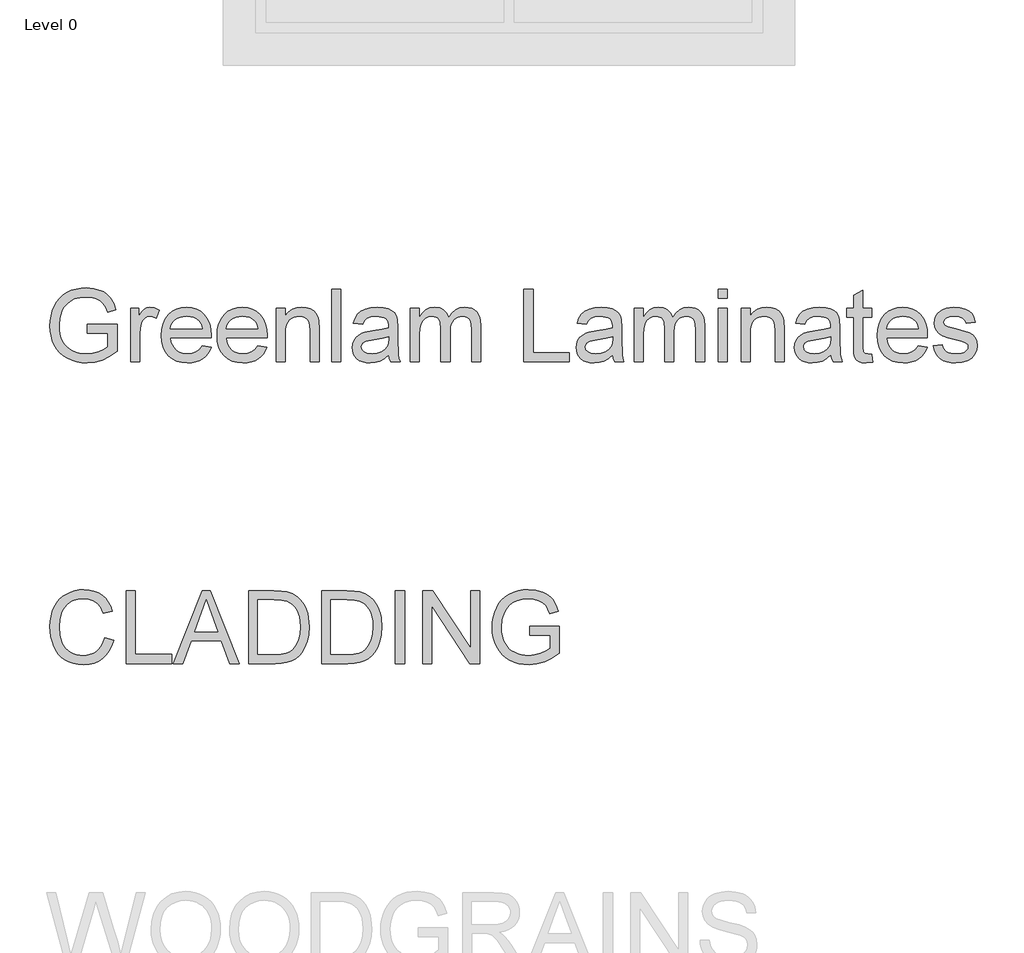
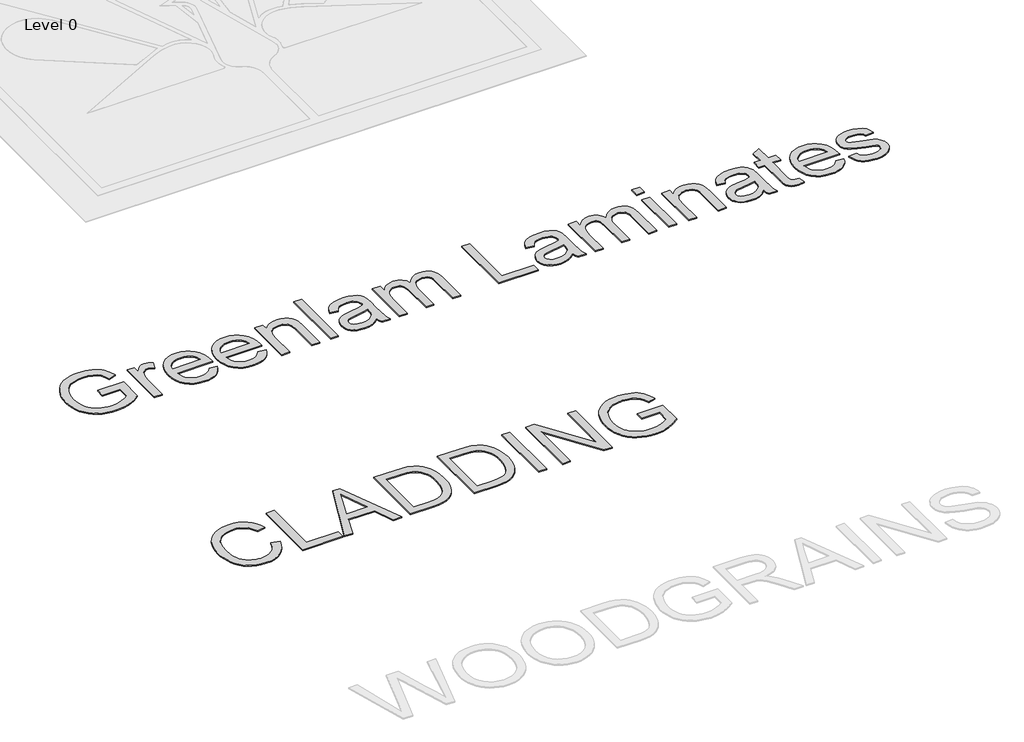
# One storey, part 10 of 10: 2 proxies.
"""IFC4 building model written with IfcOpenShell, lengths in millimetres."""

from ifc_helpers import new_model, si_unit, origin, origin_with_axes, place, context, project, spatial, polyline, outline, extrude, element, save

model = new_model("IFC4")

# Units and contexts
model_context = context("Model", 3, world=origin())
ifc_project = project(units=[si_unit("LENGTHUNIT", "METRE", prefix="MILLI")], contexts=[model_context])

# Site, building, storey
site = spatial("IfcSite", under=ifc_project)
building = spatial("IfcBuilding", under=site)
storey = spatial("IfcBuildingStorey", under=building, Name="Level 0", Elevation=0.0)

# Proxies
placement = place(None, origin())
element("IfcBuildingElementProxy", 1, Name="600mm Arial", ObjectType="600mm Arial", at=placement, inside=storey, context=model_context, shape_type="SweptSolid", body=[
    extrude(outline(polyline([(-10594.9298129, 2995.5724296), (-10594.9298129, 3070.9146622), (-10350.067557, 3070.9146622), (-10350.067557, 2845.6237284), (-10409.5724697, 2804.2370039), (-10470.9535806, 2774.5489269), (-10534.0637368, 2756.6698619), (-10598.7557857, 2750.7101736), (-10642.0325039, 2753.0784139), (-10683.2766741, 2760.183135), (-10722.4882962, 2772.0243367), (-10759.6673704, 2788.6020191), (-10793.6136815, 2809.6678618), (-10823.1270146, 2834.9735446), (-10848.2073696, 2864.5190673), (-10868.8547466, 2898.3044301), (-10884.9817735, 2935.2489794), (-10896.5010785, 2974.2720621), (-10903.4126615, 3015.373678), (-10905.7165225, 3058.5538272), (-10903.4218585, 3101.7385749), (-10896.5378667, 3143.4425975), (-10885.064547, 3183.6658952), (-10869.0018994, 3222.4084678), (-10848.6350324, 3257.9688612), (-10824.2490546, 3288.645621), (-10795.8439661, 3314.4387474), (-10763.4197667, 3335.3482403), (-10727.6800309, 3351.507457), (-10689.3283329, 3363.0497546), (-10648.3646727, 3369.9751331), (-10604.7890504, 3372.2835926), (-10542.7273578, 3366.9309096), (-10486.9196592, 3350.8728605), (-10462.0002525, 3339.1190308), (-10439.9227343, 3325.2682737), (-10420.6871045, 3309.3205892), (-10404.293363, 3291.2759773), (-10377.9346181, 3247.2588966), (-10358.749572, 3191.5799566), (-10428.2056927, 3172.0086345), (-10443.7119188, 3211.7214959), (-10462.5658711, 3241.6854844), (-10487.5082704, 3264.2734389), (-10521.2798375, 3281.8581982), (-10561.5445219, 3293.1705696), (-10605.9662728, 3296.94136), (-10657.9663928, 3292.876264), (-10702.4249319, 3280.6809758), (-10739.1763433, 3261.8822059), (-10768.0550799, 3238.0066644), (-10790.2199701, 3210.2867561), (-10806.8298422, 3179.9548856), (-10824.4881779, 3123.0803291), (-10830.3742899, 3061.6440359), (-10828.6038578, 3024.0235034), (-10823.2925615, 2989.5943472), (-10814.4404009, 2958.3565672), (-10802.0473762, 2930.3101636), (-10786.2744357, 2905.5609024), (-10767.2825277, 2884.2145496), (-10745.0716522, 2866.2711053), (-10719.6418093, 2851.7305695), (-10692.1840169, 2840.496373), (-10663.8892929, 2832.471947), (-10634.7576374, 2827.6572914), (-10604.7890504, 2826.0524062), (-10552.6049894, 2830.8900544), (-10501.7085154, 2845.4029992), (-10457.5074936, 2865.3973856), (-10425.4097896, 2886.679359), (-10425.4097896, 2995.5724296), (-10594.9298129, 2995.5724296)])), origin_with_axes(), (0.0, 0.0, 1.0), 10.0),
    extrude(outline(polyline([(-10237.054208, 2760.1279527), (-10237.054208, 3202.7635693), (-10171.1297545, 3202.7635693), (-10171.1297545, 3137.2805741), (-10146.7759664, 3175.245996), (-10124.3351647, 3197.6132213), (-10101.8207866, 3208.5393166), (-10077.2462693, 3212.1813483), (-10039.7223058, 3206.3688128), (-10001.6097311, 3188.9312062), (-10026.7728596, 3121.3880719), (-10053.2603632, 3132.9763548), (-10079.7478669, 3136.8391157), (-10102.2438509, 3133.1235076), (-10122.3486019, 3121.9766831), (-10138.590592, 3104.244771), (-10149.4982932, 3080.7738997), (-10158.6585549, 3038.6881994), (-10161.7119754, 2992.7765264), (-10161.7119754, 2760.1279527), (-10237.054208, 2760.1279527)])), origin_with_axes(), (0.0, 0.0, 1.0), 10.0),
    extrude(outline(polyline([(-9644.617043, 2891.9768597), (-9570.7463384, 2882.5590807), (-9582.0725053, 2852.9721712), (-9597.3626007, 2826.8985348), (-9616.6166246, 2804.3381714), (-9639.8345771, 2785.2910811), (-9666.7773347, 2770.1619341), (-9697.2057742, 2759.3554005), (-9731.1198956, 2752.8714803), (-9768.519699, 2750.7101736), (-9815.2683035, 2754.4395773), (-9856.9217424, 2765.6277885), (-9893.4800157, 2784.2748071), (-9924.9431233, 2810.3806332), (-9950.2442075, 2843.2186998), (-9968.3164106, 2882.06244), (-9979.1597324, 2926.9118537), (-9982.774173, 2977.766941), (-9979.1229442, 3030.3464752), (-9968.1692578, 3076.6904095), (-9949.9131138, 3116.798744), (-9924.3545121, 3150.6714788), (-9892.9741779, 3177.5820467), (-9857.2528362, 3196.8038809), (-9817.1904869, 3208.3369815), (-9772.7871301, 3212.1813483), (-9729.8139146, 3208.3461785), (-9690.9517803, 3196.8406691), (-9656.2007273, 3177.6648201), (-9625.5607557, 3150.8186315), (-9600.5493785, 3117.0194732), (-9582.6841091, 3076.9847151), (-9571.9649475, 3030.7143572), (-9568.3918936, 2978.2083994), (-9568.833352, 2957.9013133), (-9907.4319404, 2957.9013133), (-9903.0679402, 2927.8361572), (-9894.3905236, 2901.5050034), (-9881.3996907, 2878.9078519), (-9864.0954413, 2860.0447026), (-9843.4342688, 2845.1730729), (-9820.3726662, 2834.5504803), (-9794.9106336, 2828.1769247), (-9767.048171, 2826.0524062), (-9726.9490335, 2829.9887436), (-9693.1774664, 2841.7977556), (-9665.7334695, 2862.2152063), (-9644.617043, 2891.9768597)]), holes=[polyline([(-9907.4319404, 3033.2435459), (-9643.7341262, 3033.2435459), (-9653.9244575, 3073.0483778), (-9662.689246, 3088.7017567), (-9673.9004498, 3101.5224442), (-9694.4466593, 3116.973488), (-9717.82556, 3128.0099478), (-9744.0371522, 3134.6318238), (-9773.0814357, 3136.8391157), (-9799.5735379, 3135.0778807), (-9823.8675452, 3129.7941755), (-9845.9634575, 3120.9880003), (-9865.8612749, 3108.6593549), (-9882.558519, 3093.3784565), (-9895.0527112, 3075.7155222), (-9903.3438517, 3055.670552), (-9907.4319404, 3033.2435459)])]), origin_with_axes(), (0.0, 0.0, 1.0), 10.0),
    extrude(outline(polyline([(-9183.1458683, 2891.9768597), (-9109.2751636, 2882.5590807), (-9120.6013305, 2852.9721712), (-9135.891426, 2826.8985348), (-9155.1454499, 2804.3381714), (-9178.3634023, 2785.2910811), (-9205.3061599, 2770.1619341), (-9235.7345995, 2759.3554005), (-9269.6487209, 2752.8714803), (-9307.0485242, 2750.7101736), (-9353.7971288, 2754.4395773), (-9395.4505677, 2765.6277885), (-9432.0088409, 2784.2748071), (-9463.4719486, 2810.3806332), (-9488.7730328, 2843.2186998), (-9506.8452358, 2882.06244), (-9517.6885576, 2926.9118537), (-9521.3029982, 2977.766941), (-9517.6517694, 3030.3464752), (-9506.698083, 3076.6904095), (-9488.441939, 3116.798744), (-9462.8833374, 3150.6714788), (-9431.5030032, 3177.5820467), (-9395.7816615, 3196.8038809), (-9355.7193122, 3208.3369815), (-9311.3159554, 3212.1813483), (-9268.3427398, 3208.3461785), (-9229.4806055, 3196.8406691), (-9194.7295526, 3177.6648201), (-9164.0895809, 3150.8186315), (-9139.0782038, 3117.0194732), (-9121.2129344, 3076.9847151), (-9110.4937727, 3030.7143572), (-9106.9207189, 2978.2083994), (-9107.3621772, 2957.9013133), (-9445.9607656, 2957.9013133), (-9441.5967654, 2927.8361572), (-9432.9193489, 2901.5050034), (-9419.9285159, 2878.9078519), (-9402.6242666, 2860.0447026), (-9381.963094, 2845.1730729), (-9358.9014915, 2834.5504803), (-9333.4394589, 2828.1769247), (-9305.5769962, 2826.0524062), (-9265.4778588, 2829.9887436), (-9231.7062916, 2841.7977556), (-9204.2622948, 2862.2152063), (-9183.1458683, 2891.9768597)]), holes=[polyline([(-9445.9607656, 3033.2435459), (-9182.2629515, 3033.2435459), (-9192.4532827, 3073.0483778), (-9201.2180713, 3088.7017567), (-9212.4292751, 3101.5224442), (-9232.9754845, 3116.973488), (-9256.3543853, 3128.0099478), (-9282.5659775, 3134.6318238), (-9311.610261, 3136.8391157), (-9338.1023631, 3135.0778807), (-9362.3963704, 3129.7941755), (-9384.4922827, 3120.9880003), (-9404.3901002, 3108.6593549), (-9421.0873442, 3093.3784565), (-9433.5815365, 3075.7155222), (-9441.8726769, 3055.670552), (-9445.9607656, 3033.2435459)])]), origin_with_axes(), (0.0, 0.0, 1.0), 10.0),
    extrude(outline(polyline([(-9031.5784862, 2760.1279527), (-9031.5784862, 3202.7635693), (-8956.2362536, 3202.7635693), (-8956.2362536, 3140.9593941), (-8930.0614497, 3172.1189991), (-8898.6259332, 3194.3758598), (-8861.9297042, 3207.7299762), (-8819.9727626, 3212.1813483), (-8782.8350752, 3208.5944989), (-8748.8243847, 3197.8339505), (-8720.4606829, 3181.2424725), (-8700.2639614, 3160.1628342), (-8686.5603571, 3134.6502179), (-8677.6760069, 3104.7598058), (-8673.7028813, 3031.9191707), (-8673.7028813, 2760.1279527), (-8749.0451139, 2760.1279527), (-8749.0451139, 3021.7656276), (-8751.2156177, 3060.7243309), (-8757.727129, 3088.4258452), (-8769.7384762, 3108.2730788), (-8788.4084874, 3123.6689403), (-8812.3392112, 3133.5465719), (-8840.132696, 3136.8391157), (-8863.0103575, 3134.9905087), (-8884.2601413, 3129.4446876), (-8903.8820472, 3120.2016525), (-8921.8760753, 3107.2614033), (-8936.9086533, 3089.1524121), (-8947.646209, 3064.4031509), (-8954.0887425, 3033.0136196), (-8956.2362536, 2994.9838184), (-8956.2362536, 2760.1279527), (-9031.5784862, 2760.1279527)])), origin_with_axes(), (0.0, 0.0, 1.0), 10.0),
    extrude(outline(polyline([(-8570.1073115, 2760.1279527), (-8570.1073115, 3362.8658136), (-8494.7650789, 3362.8658136), (-8494.7650789, 2760.1279527), (-8570.1073115, 2760.1279527)])), origin_with_axes(), (0.0, 0.0, 1.0), 10.0),
    extrude(outline(polyline([(-8099.2183577, 2816.6346271), (-8135.2156109, 2785.7693277), (-8172.2797219, 2765.5726062), (-8211.2568193, 2754.4257817), (-8252.9930316, 2750.7101736), (-8286.5392711, 2752.9450567), (-8315.9560351, 2759.6497061), (-8341.2433238, 2770.8241217), (-8362.401137, 2786.4683035), (-8379.1075781, 2805.5889702), (-8391.0407503, 2827.1928404), (-8398.2006537, 2851.279914), (-8400.5872881, 2877.8501911), (-8396.9820446, 2909.0833725), (-8386.1663139, 2937.4470743), (-8369.4828654, 2961.727286), (-8348.2744684, 2980.709997), (-8323.3504632, 2995.0573948), (-8295.5201903, 3005.4316671), (-8230.3315007, 3016.7624325), (-8153.297011, 3028.6818092), (-8099.6598161, 3042.661325), (-8099.2183577, 3059.4367439), (-8104.4054938, 3093.0611583), (-8110.889414, 3105.5139638), (-8119.9669022, 3115.0605016), (-8135.6570693, 3124.5886453), (-8154.7685389, 3131.3944622), (-8203.2553859, 3136.8391157), (-8248.1369893, 3133.2154781), (-8279.4805353, 3122.3445651), (-8300.8544792, 3102.2398141), (-8315.8272764, 3070.9146622), (-8391.169509, 3080.3324413), (-8378.0913041, 3121.5352247), (-8358.5751643, 3153.9088403), (-8330.8000736, 3178.6672986), (-8292.9450163, 3197.0246101), (-8246.6470672, 3208.3921638), (-8193.5433012, 3212.1813483), (-8142.610039, 3208.8336222), (-8102.23499, 3198.7904437), (-8071.7927549, 3183.6888878), (-8050.6579343, 3165.1660294), (-8036.6416303, 3142.2653752), (-8027.554945, 3114.030432), (-8023.8761251, 3048.1059785), (-8023.8761251, 2954.3696461), (-8020.0501523, 2823.4772322), (-8014.3847696, 2791.1220108), (-8005.0405669, 2760.1279527), (-8080.3827995, 2760.1279527), (-8092.449329, 2786.3211507), (-8099.2183577, 2816.6346271)]), holes=[polyline([(-8099.2183577, 2967.3190924), (-8149.8389202, 2954.7743163), (-8220.7665689, 2944.2161031), (-8285.5873764, 2932.0024208), (-8302.4547659, 2923.6514995), (-8314.9443596, 2912.1367931), (-8322.6698815, 2898.3412183), (-8325.2450555, 2883.1476919), (-8319.6348551, 2860.7436784), (-8302.8042538, 2842.3863668), (-8275.1211337, 2830.1358964), (-8236.9533767, 2826.0524062), (-8196.4863572, 2830.5589606), (-8160.7282273, 2844.078624), (-8131.739126, 2863.999434), (-8111.5791927, 2887.7094286), (-8102.6396602, 2912.1367931), (-8099.6598161, 2945.9819366), (-8099.2183577, 2967.3190924)])]), origin_with_axes(), (0.0, 0.0, 1.0), 10.0),
    extrude(outline(polyline([(-7920.2805552, 2760.1279527), (-7920.2805552, 3202.7635693), (-7844.9383226, 3202.7635693), (-7844.9383226, 3129.9229342), (-7822.2767917, 3163.3818017), (-7793.1405377, 3189.5933938), (-7758.5228419, 3206.5343597), (-7719.4169858, 3212.1813483), (-7677.5152266, 3206.4239951), (-7659.6821469, 3199.2273036), (-7643.9276004, 3189.1519354), (-7618.8380484, 3161.5056035), (-7602.4305114, 3124.6254335), (-7574.9681204, 3162.9311462), (-7543.6429685, 3190.2923696), (-7508.4550557, 3206.7091037), (-7469.4043819, 3212.1813483), (-7439.2426568, 3209.9050785), (-7412.7689488, 3203.076269), (-7389.9832577, 3191.6949197), (-7370.8855836, 3175.7610308), (-7355.7886262, 3155.0906612), (-7345.0050853, 3129.4998699), (-7338.5349607, 3098.988657), (-7336.3782525, 3063.5570223), (-7336.3782525, 2760.1279527), (-7411.7204851, 2760.1279527), (-7411.7204851, 3031.1834067), (-7413.4679246, 3068.7625525), (-7418.710243, 3094.0912279), (-7428.5326923, 3111.436864), (-7444.0205243, 3125.0668919), (-7463.9413343, 3133.8960598), (-7487.0627177, 3136.8391157), (-7508.413669, 3134.9537205), (-7527.8792251, 3129.2975348), (-7545.4593859, 3119.8705587), (-7561.1541515, 3106.6727921), (-7574.062211, 3089.317959), (-7583.2822535, 3067.4197832), (-7588.814279, 3040.9782648), (-7590.6582875, 3009.9934038), (-7590.6582875, 2760.1279527), (-7666.0005201, 2760.1279527), (-7666.0005201, 3039.5711162), (-7670.3599218, 3082.1718512), (-7675.8091738, 3098.8920879), (-7683.4381267, 3112.5589041), (-7693.5502831, 3123.1814967), (-7706.4491455, 3130.7690628), (-7722.1347141, 3135.3216025), (-7740.6069888, 3136.8391157), (-7769.6328782, 3132.7924138), (-7796.3778992, 3120.6523079), (-7818.4508189, 3100.7131038), (-7833.4604044, 3073.269107), (-7842.068843, 3035.1933205), (-7844.9383226, 2983.3587473), (-7844.9383226, 2760.1279527), (-7920.2805552, 2760.1279527)])), origin_with_axes(), (0.0, 0.0, 1.0), 10.0),
    extrude(outline(polyline([(-6978.5026476, 2760.1279527), (-6978.5026476, 3362.8658136), (-6903.1604149, 3362.8658136), (-6903.1604149, 2835.4701853), (-6601.7914845, 2835.4701853), (-6601.7914845, 2760.1279527), (-6978.5026476, 2760.1279527)])), origin_with_axes(), (0.0, 0.0, 1.0), 10.0),
    extrude(outline(polyline([(-6243.9158796, 2816.6346271), (-6279.9131328, 2785.7693277), (-6316.9772438, 2765.5726062), (-6355.9543412, 2754.4257817), (-6397.6905536, 2750.7101736), (-6431.236793, 2752.9450567), (-6460.653557, 2759.6497061), (-6485.9408457, 2770.8241217), (-6507.0986589, 2786.4683035), (-6523.8051, 2805.5889702), (-6535.7382723, 2827.1928404), (-6542.8981756, 2851.279914), (-6545.28481, 2877.8501911), (-6541.6795665, 2909.0833725), (-6530.8638358, 2937.4470743), (-6514.1803873, 2961.727286), (-6492.9719903, 2980.709997), (-6468.0479852, 2995.0573948), (-6440.2177122, 3005.4316671), (-6375.0290227, 3016.7624325), (-6297.9945329, 3028.6818092), (-6244.357338, 3042.661325), (-6243.9158796, 3059.4367439), (-6249.1030157, 3093.0611583), (-6255.5869359, 3105.5139638), (-6264.6644241, 3115.0605016), (-6280.3545912, 3124.5886453), (-6299.4660609, 3131.3944622), (-6347.9529078, 3136.8391157), (-6392.8345112, 3133.2154781), (-6424.1780572, 3122.3445651), (-6445.5520011, 3102.2398141), (-6460.5247984, 3070.9146622), (-6535.867031, 3080.3324413), (-6522.788826, 3121.5352247), (-6503.2726862, 3153.9088403), (-6475.4975956, 3178.6672986), (-6437.6425383, 3197.0246101), (-6391.3445892, 3208.3921638), (-6338.2408232, 3212.1813483), (-6287.3075609, 3208.8336222), (-6246.932512, 3198.7904437), (-6216.4902768, 3183.6888878), (-6195.3554562, 3165.1660294), (-6181.3391522, 3142.2653752), (-6172.2524669, 3114.030432), (-6168.573647, 3048.1059785), (-6168.573647, 2954.3696461), (-6164.7476742, 2823.4772322), (-6159.0822915, 2791.1220108), (-6149.7380888, 2760.1279527), (-6225.0803214, 2760.1279527), (-6237.1468509, 2786.3211507), (-6243.9158796, 2816.6346271)]), holes=[polyline([(-6243.9158796, 2967.3190924), (-6294.5364421, 2954.7743163), (-6365.4640908, 2944.2161031), (-6430.2848983, 2932.0024208), (-6447.1522878, 2923.6514995), (-6459.6418816, 2912.1367931), (-6467.3674035, 2898.3412183), (-6469.9425774, 2883.1476919), (-6464.332377, 2860.7436784), (-6447.5017757, 2842.3863668), (-6419.8186556, 2830.1358964), (-6381.6508986, 2826.0524062), (-6341.1838791, 2830.5589606), (-6305.4257492, 2844.078624), (-6276.436648, 2863.999434), (-6256.2767146, 2887.7094286), (-6247.3371821, 2912.1367931), (-6244.357338, 2945.9819366), (-6243.9158796, 2967.3190924)])]), origin_with_axes(), (0.0, 0.0, 1.0), 10.0),
    extrude(outline(polyline([(-6064.9780771, 2760.1279527), (-6064.9780771, 3202.7635693), (-5989.6358445, 3202.7635693), (-5989.6358445, 3129.9229342), (-5966.9743136, 3163.3818017), (-5937.8380596, 3189.5933938), (-5903.2203639, 3206.5343597), (-5864.1145078, 3212.1813483), (-5822.2127485, 3206.4239951), (-5804.3796688, 3199.2273036), (-5788.6251224, 3189.1519354), (-5763.5355703, 3161.5056035), (-5747.1280333, 3124.6254335), (-5719.6656424, 3162.9311462), (-5688.3404905, 3190.2923696), (-5653.1525776, 3206.7091037), (-5614.1019038, 3212.1813483), (-5583.9401788, 3209.9050785), (-5557.4664707, 3203.076269), (-5534.6807796, 3191.6949197), (-5515.5831055, 3175.7610308), (-5500.4861482, 3155.0906612), (-5489.7026072, 3129.4998699), (-5483.2324826, 3098.988657), (-5481.0757744, 3063.5570223), (-5481.0757744, 2760.1279527), (-5556.418007, 2760.1279527), (-5556.418007, 3031.1834067), (-5558.1654465, 3068.7625525), (-5563.4077649, 3094.0912279), (-5573.2302142, 3111.436864), (-5588.7180462, 3125.0668919), (-5608.6388562, 3133.8960598), (-5631.7602396, 3136.8391157), (-5653.1111909, 3134.9537205), (-5672.576747, 3129.2975348), (-5690.1569078, 3119.8705587), (-5705.8516734, 3106.6727921), (-5718.759733, 3089.317959), (-5727.9797755, 3067.4197832), (-5733.511801, 3040.9782648), (-5735.3558095, 3009.9934038), (-5735.3558095, 2760.1279527), (-5810.6980421, 2760.1279527), (-5810.6980421, 3039.5711162), (-5815.0574437, 3082.1718512), (-5820.5066958, 3098.8920879), (-5828.1356486, 3112.5589041), (-5838.247805, 3123.1814967), (-5851.1466674, 3130.7690628), (-5866.832236, 3135.3216025), (-5885.3045107, 3136.8391157), (-5914.3304001, 3132.7924138), (-5941.0754212, 3120.6523079), (-5963.1483409, 3100.7131038), (-5978.1579263, 3073.269107), (-5986.766365, 3035.1933205), (-5989.6358445, 2983.3587473), (-5989.6358445, 2760.1279527), (-6064.9780771, 2760.1279527)])), origin_with_axes(), (0.0, 0.0, 1.0), 10.0),
    extrude(outline(polyline([(-5368.0624255, 3287.523581), (-5368.0624255, 3362.8658136), (-5292.7201929, 3362.8658136), (-5292.7201929, 3287.523581), (-5368.0624255, 3287.523581)])), origin_with_axes(), (0.0, 0.0, 1.0), 10.0),
    extrude(outline(polyline([(-5368.0624255, 2760.1279527), (-5368.0624255, 3202.7635693), (-5292.7201929, 3202.7635693), (-5292.7201929, 2760.1279527), (-5368.0624255, 2760.1279527)])), origin_with_axes(), (0.0, 0.0, 1.0), 10.0),
    extrude(outline(polyline([(-5179.7068439, 2760.1279527), (-5179.7068439, 3202.7635693), (-5104.3646113, 3202.7635693), (-5104.3646113, 3140.9593941), (-5078.1898074, 3172.1189991), (-5046.7542909, 3194.3758598), (-5010.0580619, 3207.7299762), (-4968.1011203, 3212.1813483), (-4930.9634329, 3208.5944989), (-4896.9527424, 3197.8339505), (-4868.5890406, 3181.2424725), (-4848.3923191, 3160.1628342), (-4834.6887148, 3134.6502179), (-4825.8043646, 3104.7598058), (-4821.831239, 3031.9191707), (-4821.831239, 2760.1279527), (-4897.1734716, 2760.1279527), (-4897.1734716, 3021.7656276), (-4899.3439754, 3060.7243309), (-4905.8554867, 3088.4258452), (-4917.8668339, 3108.2730788), (-4936.5368451, 3123.6689403), (-4960.4675689, 3133.5465719), (-4988.2610537, 3136.8391157), (-5011.1387152, 3134.9905087), (-5032.388499, 3129.4446876), (-5052.0104049, 3120.2016525), (-5070.004433, 3107.2614033), (-5085.037011, 3089.1524121), (-5095.7745667, 3064.4031509), (-5102.2171002, 3033.0136196), (-5104.3646113, 2994.9838184), (-5104.3646113, 2760.1279527), (-5179.7068439, 2760.1279527)])), origin_with_axes(), (0.0, 0.0, 1.0), 10.0),
    extrude(outline(polyline([(-4435.7022969, 2816.6346271), (-4471.6995501, 2785.7693277), (-4508.7636611, 2765.5726062), (-4547.7407585, 2754.4257817), (-4589.4769709, 2750.7101736), (-4623.0232103, 2752.9450567), (-4652.4399744, 2759.6497061), (-4677.727263, 2770.8241217), (-4698.8850762, 2786.4683035), (-4715.5915174, 2805.5889702), (-4727.5246896, 2827.1928404), (-4734.6845929, 2851.279914), (-4737.0712273, 2877.8501911), (-4733.4659838, 2909.0833725), (-4722.6502531, 2937.4470743), (-4705.9668047, 2961.727286), (-4684.7584076, 2980.709997), (-4659.8344025, 2995.0573948), (-4632.0041295, 3005.4316671), (-4566.81544, 3016.7624325), (-4489.7809502, 3028.6818092), (-4436.1437553, 3042.661325), (-4435.7022969, 3059.4367439), (-4440.889433, 3093.0611583), (-4447.3733532, 3105.5139638), (-4456.4508414, 3115.0605016), (-4472.1410085, 3124.5886453), (-4491.2524782, 3131.3944622), (-4539.7393251, 3136.8391157), (-4584.6209285, 3133.2154781), (-4615.9644745, 3122.3445651), (-4637.3384185, 3102.2398141), (-4652.3112157, 3070.9146622), (-4727.6534483, 3080.3324413), (-4714.5752433, 3121.5352247), (-4695.0591035, 3153.9088403), (-4667.2840129, 3178.6672986), (-4629.4289556, 3197.0246101), (-4583.1310065, 3208.3921638), (-4530.0272405, 3212.1813483), (-4479.0939782, 3208.8336222), (-4438.7189293, 3198.7904437), (-4408.2766942, 3183.6888878), (-4387.1418735, 3165.1660294), (-4373.1255695, 3142.2653752), (-4364.0388842, 3114.030432), (-4360.3600643, 3048.1059785), (-4360.3600643, 2954.3696461), (-4356.5340915, 2823.4772322), (-4350.8687088, 2791.1220108), (-4341.5245061, 2760.1279527), (-4416.8667387, 2760.1279527), (-4428.9332682, 2786.3211507), (-4435.7022969, 2816.6346271)]), holes=[polyline([(-4435.7022969, 2967.3190924), (-4486.3228594, 2954.7743163), (-4557.2505081, 2944.2161031), (-4622.0713157, 2932.0024208), (-4638.9387051, 2923.6514995), (-4651.4282989, 2912.1367931), (-4659.1538208, 2898.3412183), (-4661.7289947, 2883.1476919), (-4656.1187943, 2860.7436784), (-4639.288193, 2842.3863668), (-4611.6050729, 2830.1358964), (-4573.4373159, 2826.0524062), (-4532.9702964, 2830.5589606), (-4497.2121665, 2844.078624), (-4468.2230653, 2863.999434), (-4448.0631319, 2887.7094286), (-4439.1235995, 2912.1367931), (-4436.1437553, 2945.9819366), (-4435.7022969, 2967.3190924)])]), origin_with_axes(), (0.0, 0.0, 1.0), 10.0),
    extrude(outline(polyline([(-4096.6622501, 2822.9621974), (-4087.2444711, 2757.9206607), (-4143.6039927, 2750.7101736), (-4179.7667929, 2753.8371706), (-4206.7325431, 2763.2181614), (-4225.7888304, 2777.6759238), (-4238.2232419, 2796.0332354), (-4245.065847, 2827.5607224), (-4247.3467154, 2881.5290111), (-4247.3467154, 3127.4213367), (-4303.8533898, 3127.4213367), (-4303.8533898, 3202.7635693), (-4247.3467154, 3202.7635693), (-4247.3467154, 3310.3322647), (-4172.0044828, 3354.6252569), (-4172.0044828, 3202.7635693), (-4096.6622501, 3202.7635693), (-4096.6622501, 3127.4213367), (-4172.0044828, 3127.4213367), (-4172.0044828, 2883.7363031), (-4168.0313572, 2844.8879644), (-4155.1554874, 2831.1291777), (-4144.2845744, 2827.3215991), (-4129.4773241, 2826.0524062), (-4096.6622501, 2822.9621974)])), origin_with_axes(), (0.0, 0.0, 1.0), 10.0),
    extrude(outline(polyline([(-3711.4162248, 2891.9768597), (-3637.5455202, 2882.5590807), (-3648.8716871, 2852.9721712), (-3664.1617825, 2826.8985348), (-3683.4158064, 2804.3381714), (-3706.6337589, 2785.2910811), (-3733.5765165, 2770.1619341), (-3764.004956, 2759.3554005), (-3797.9190774, 2752.8714803), (-3835.3188808, 2750.7101736), (-3882.0674853, 2754.4395773), (-3923.7209242, 2765.6277885), (-3960.2791975, 2784.2748071), (-3991.7423051, 2810.3806332), (-4017.0433893, 2843.2186998), (-4035.1155923, 2882.06244), (-4045.9589142, 2926.9118537), (-4049.5733548, 2977.766941), (-4045.922126, 3030.3464752), (-4034.9684396, 3076.6904095), (-4016.7122955, 3116.798744), (-3991.1536939, 3150.6714788), (-3959.7733597, 3177.5820467), (-3924.052018, 3196.8038809), (-3883.9896687, 3208.3369815), (-3839.5863119, 3212.1813483), (-3796.6130964, 3208.3461785), (-3757.7509621, 3196.8406691), (-3722.9999091, 3177.6648201), (-3692.3599374, 3150.8186315), (-3667.3485603, 3117.0194732), (-3649.4832909, 3076.9847151), (-3638.7641293, 3030.7143572), (-3635.1910754, 2978.2083994), (-3635.6325338, 2957.9013133), (-3974.2311221, 2957.9013133), (-3969.867122, 2927.8361572), (-3961.1897054, 2901.5050034), (-3948.1988725, 2878.9078519), (-3930.8946231, 2860.0447026), (-3910.2334506, 2845.1730729), (-3887.171848, 2834.5504803), (-3861.7098154, 2828.1769247), (-3833.8473528, 2826.0524062), (-3793.7482153, 2829.9887436), (-3759.9766482, 2841.7977556), (-3732.5326513, 2862.2152063), (-3711.4162248, 2891.9768597)]), holes=[polyline([(-3974.2311221, 3033.2435459), (-3710.533308, 3033.2435459), (-3720.7236393, 3073.0483778), (-3729.4884278, 3088.7017567), (-3740.6996316, 3101.5224442), (-3761.245841, 3116.973488), (-3784.6247418, 3128.0099478), (-3810.836334, 3134.6318238), (-3839.8806175, 3136.8391157), (-3866.3727197, 3135.0778807), (-3890.6667269, 3129.7941755), (-3912.7626393, 3120.9880003), (-3932.6604567, 3108.6593549), (-3949.3577007, 3093.3784565), (-3961.851893, 3075.7155222), (-3970.1430335, 3055.670552), (-3974.2311221, 3033.2435459)])]), origin_with_axes(), (0.0, 0.0, 1.0), 10.0),
    extrude(outline(polyline([(-3588.10218, 2891.9768597), (-3512.7599474, 2901.3946388), (-3508.2074077, 2884.2145496), (-3500.877359, 2869.168176), (-3490.7698011, 2856.255518), (-3477.8847343, 2845.4765756), (-3462.1853701, 2836.9785015), (-3443.6349205, 2830.9084485), (-3397.9807649, 2826.0524062), (-3352.8784323, 2830.5037783), (-3335.3488552, 2836.0679935), (-3321.1670043, 2843.8578948), (-3302.4050226, 2863.2084877), (-3297.7145271, 2874.0426125), (-3296.1510286, 2885.6492894), (-3297.7237242, 2895.8212266), (-3302.4418108, 2904.8527296), (-3321.3141571, 2919.494433), (-3349.5307061, 2929.0593649), (-3398.8636817, 2940.9787415), (-3467.6208266, 2960.8627633), (-3512.318489, 2977.8405174), (-3541.0316787, 2996.3633759), (-3561.8354056, 3020.8827109), (-3574.4721521, 3049.8350239), (-3578.6844009, 3081.6568165), (-3575.2998866, 3110.8482528), (-3565.1463435, 3137.7956089), (-3549.1434767, 3161.4320271), (-3528.2109912, 3180.6906496), (-3507.4072644, 3192.8123613), (-3480.3127554, 3202.9842985), (-3448.9876035, 3209.8820859), (-3415.4919479, 3212.1813483), (-3366.4532779, 3208.4841343), (-3323.8157547, 3197.3924921), (-3289.5291527, 3179.9916738), (-3265.5432466, 3157.3669311), (-3249.6507444, 3127.844401), (-3239.6443542, 3089.7502203), (-3314.9865868, 3080.3324413), (-3324.4963364, 3104.0424359), (-3343.3135004, 3121.9031067), (-3371.6220199, 3133.1051135), (-3409.605836, 3136.8391157), (-3452.8687586, 3133.2706604), (-3481.710707, 3122.5652943), (-3497.934303, 3107.1142505), (-3503.3421683, 3089.308762), (-3501.0980882, 3077.7204791), (-3494.3658476, 3067.382995), (-3482.8511412, 3058.149157), (-3466.2596632, 3050.7547289), (-3401.3652793, 3034.7150739), (-3290.7799515, 2999.2512495), (-3261.5701211, 2982.2918896), (-3239.423625, 2959.0785357), (-3225.4625033, 2929.5376115), (-3220.808796, 2893.5955405), (-3226.2718437, 2856.439459), (-3242.6609865, 2821.4906695), (-3269.3508253, 2791.4898928), (-3305.7159605, 2769.1778498), (-3349.6410707, 2755.3270926), (-3399.0108345, 2750.7101736), (-3439.5606274, 2752.9358597), (-3474.9784665, 2759.6129179), (-3505.2643517, 2770.7413482), (-3530.4182832, 2786.3211507), (-3550.9644926, 2806.278749), (-3567.4272119, 2830.5405665), (-3579.806441, 2859.1066035), (-3588.10218, 2891.9768597)])), origin_with_axes(), (0.0, 0.0, 1.0), 10.0),
])
element("IfcBuildingElementProxy", 2, Name="600mm Arial", ObjectType="600mm Arial", at=placement, inside=storey, context=model_context, shape_type="SweptSolid", body=[
    extrude(outline(polyline([(-10453.6631268, 474.3824267), (-10378.3208942, 454.9582573), (-10393.229312, 408.1038867), (-10413.0857427, 367.1632192), (-10437.8901863, 332.1362547), (-10467.6426426, 303.0229933), (-10501.6717272, 280.1361347), (-10539.3060553, 263.7883785), (-10580.5456269, 253.9797248), (-10625.3904421, 250.7101736), (-10671.3343048, 253.18418), (-10712.7808101, 260.6061993), (-10749.729958, 272.9762314), (-10782.1817485, 290.2942763), (-10810.5822385, 312.3028166), (-10835.377485, 338.744335), (-10856.5674879, 369.6188315), (-10874.1522473, 404.926306), (-10887.9616177, 443.1400482), (-10897.8254537, 482.733348), (-10903.7437553, 523.7062052), (-10905.7165225, 566.0586199), (-10903.4862379, 611.5012433), (-10896.7953841, 653.9456285), (-10885.6439611, 693.3917754), (-10870.0319689, 729.8396841), (-10850.3088955, 762.6869478), (-10826.8242286, 791.3311596), (-10799.5779683, 815.7723197), (-10768.5701147, 836.0104279), (-10734.8537298, 851.8799375), (-10699.481876, 863.2153015), (-10662.4545532, 870.0165199), (-10623.7717614, 872.2835926), (-10580.6789842, 869.3497337), (-10541.1638594, 860.548157), (-10505.2263869, 845.8788624), (-10472.8665669, 825.3418501), (-10444.6178282, 799.4797458), (-10421.0135997, 768.8351756), (-10402.0538814, 733.4081395), (-10387.7386733, 693.1986374), (-10463.0809059, 675.245996), (-10474.9451002, 704.8742922), (-10489.2005275, 730.189172), (-10505.8471878, 751.1906354), (-10524.8850811, 767.8786824), (-10546.4245719, 780.5936039), (-10570.5760249, 789.6756906), (-10597.33944, 795.1249427), (-10626.7148173, 796.94136), (-10660.5139756, 794.9272061), (-10691.4252603, 788.8847443), (-10719.4486713, 778.8139747), (-10744.5842086, 764.7148973), (-10766.514574, 747.2221084), (-10784.9224694, 726.9702046), (-10799.8078946, 703.9591858), (-10811.1708497, 678.189052), (-10825.5734298, 623.0435409), (-10830.3742899, 566.2057727), (-10824.690513, 496.6024992), (-10817.585792, 465.3325296), (-10807.6391826, 436.4170048), (-10794.6897363, 410.4307403), (-10778.5765049, 387.9485519), (-10759.2994884, 368.9704395), (-10736.8586867, 353.496403), (-10712.3439502, 341.4896544), (-10686.8451294, 332.9134054), (-10660.3622243, 327.767656), (-10632.8952348, 326.0524062), (-10600.1399417, 328.3884569), (-10570.0058078, 335.3966089), (-10542.4928331, 347.0768622), (-10517.6010176, 363.4292169), (-10495.9189725, 384.3800965), (-10478.035309, 409.8559247), (-10463.9500271, 439.8567014), (-10453.6631268, 474.3824267)])), origin_with_axes(), (0.0, 0.0, 1.0), 10.0),
    extrude(outline(polyline([(-10274.7253243, 260.1279527), (-10274.7253243, 862.8658136), (-10199.3830917, 862.8658136), (-10199.3830917, 335.4701853), (-9898.0141613, 335.4701853), (-9898.0141613, 260.1279527), (-10274.7253243, 260.1279527)])), origin_with_axes(), (0.0, 0.0, 1.0), 10.0),
    extrude(outline(polyline([(-9883.4460343, 260.1279527), (-9642.8512094, 862.8658136), (-9578.6925895, 862.8658136), (-9338.0977646, 260.1279527), (-9417.7074284, 260.1279527), (-9486.7220907, 448.4835342), (-9734.968861, 448.4835342), (-9803.8363705, 260.1279527), (-9883.4460343, 260.1279527)]), holes=[polyline([(-9707.304135, 523.8257668), (-9514.2396639, 523.8257668), (-9568.5390464, 672.0086345), (-9610.7718994, 787.523581), (-9648.295863, 684.9580807), (-9707.304135, 523.8257668)])]), origin_with_axes(), (0.0, 0.0, 1.0), 10.0),
    extrude(outline(polyline([(-9257.6051841, 260.1279527), (-9257.6051841, 862.8658136), (-9049.6782804, 862.8658136), (-8987.5430114, 860.6953098), (-8942.109585, 854.1837985), (-8894.0641964, 837.4451677), (-8853.5236006, 811.0680286), (-8831.1839664, 789.5101437), (-8811.8425705, 765.1563556), (-8795.4994129, 738.0066644), (-8782.1544935, 708.06107), (-8771.7894183, 675.5954839), (-8764.3857931, 640.8858177), (-8758.462893, 564.7342447), (-8762.4728068, 500.0421958), (-8774.502548, 443.1124571), (-8792.8230714, 394.6440042), (-8815.7053315, 355.335813), (-8842.0456823, 324.3049667), (-8870.740478, 300.6685485), (-8903.6843106, 283.1389715), (-8942.7717726, 270.4286485), (-8988.0764403, 262.7031266), (-9039.6718901, 260.1279527), (-9257.6051841, 260.1279527)]), holes=[polyline([(-9182.2629515, 335.4701853), (-9048.9425164, 335.4701853), (-8993.7970053, 338.192512), (-8951.9688225, 346.3594923), (-8920.4045473, 359.4928796), (-8896.0507592, 377.1144271), (-8869.8759553, 409.727166), (-8850.2126626, 451.941625), (-8837.9070099, 503.941745), (-8833.8051256, 565.9114671), (-8835.814681, 609.6526363), (-8841.8433472, 648.0227284), (-8851.8911242, 681.0217434), (-8865.958012, 708.6496812), (-8882.9035764, 731.5319413), (-8901.5873832, 750.293923), (-8922.0094325, 764.9356265), (-8944.1697242, 775.4570515), (-8987.5062232, 784.5069486), (-9051.0026556, 787.523581), (-9182.2629515, 787.523581), (-9182.2629515, 335.4701853)])]), origin_with_axes(), (0.0, 0.0, 1.0), 10.0),
    extrude(outline(polyline([(-8654.8673232, 260.1279527), (-8654.8673232, 862.8658136), (-8446.9404195, 862.8658136), (-8384.8051505, 860.6953098), (-8339.3717241, 854.1837985), (-8291.3263355, 837.4451677), (-8250.7857397, 811.0680286), (-8228.4461055, 789.5101437), (-8209.1047096, 765.1563556), (-8192.761552, 738.0066644), (-8179.4166326, 708.06107), (-8169.0515574, 675.5954839), (-8161.6479322, 640.8858177), (-8155.7250321, 564.7342447), (-8159.7349459, 500.0421958), (-8171.7646871, 443.1124571), (-8190.0852105, 394.6440042), (-8212.9674706, 355.335813), (-8239.3078214, 324.3049667), (-8268.0026171, 300.6685485), (-8300.9464497, 283.1389715), (-8340.0339117, 270.4286485), (-8385.3385794, 262.7031266), (-8436.9340292, 260.1279527), (-8654.8673232, 260.1279527)]), holes=[polyline([(-8579.5250906, 335.4701853), (-8446.2046555, 335.4701853), (-8391.0591444, 338.192512), (-8349.2309616, 346.3594923), (-8317.6666864, 359.4928796), (-8293.3128983, 377.1144271), (-8267.1380944, 409.727166), (-8247.4748017, 451.941625), (-8235.169149, 503.941745), (-8231.0672647, 565.9114671), (-8233.0768201, 609.6526363), (-8239.1054863, 648.0227284), (-8249.1532633, 681.0217434), (-8263.2201511, 708.6496812), (-8280.1657155, 731.5319413), (-8298.8495223, 750.293923), (-8319.2715716, 764.9356265), (-8341.4318633, 775.4570515), (-8384.7683623, 784.5069486), (-8448.2647947, 787.523581), (-8579.5250906, 787.523581), (-8579.5250906, 335.4701853)])]), origin_with_axes(), (0.0, 0.0, 1.0), 10.0),
    extrude(outline(polyline([(-8042.7116832, 260.1279527), (-8042.7116832, 862.8658136), (-7967.3694506, 862.8658136), (-7967.3694506, 260.1279527), (-8042.7116832, 260.1279527)])), origin_with_axes(), (0.0, 0.0, 1.0), 10.0),
    extrude(outline(polyline([(-7816.6849854, 260.1279527), (-7816.6849854, 862.8658136), (-7736.045252, 862.8658136), (-7421.1382642, 385.3549838), (-7421.1382642, 862.8658136), (-7345.7960315, 862.8658136), (-7345.7960315, 260.1279527), (-7426.4357649, 260.1279527), (-7741.3427528, 737.7859352), (-7741.3427528, 260.1279527), (-7816.6849854, 260.1279527)])), origin_with_axes(), (0.0, 0.0, 1.0), 10.0),
    extrude(outline(polyline([(-6931.4137522, 495.5724296), (-6931.4137522, 570.9146622), (-6686.5514962, 570.9146622), (-6686.5514962, 345.6237284), (-6746.0564089, 304.2370039), (-6807.4375198, 274.5489269), (-6870.5476761, 256.6698619), (-6935.2397249, 250.7101736), (-6978.5164431, 253.0784139), (-7019.7606133, 260.183135), (-7058.9722355, 272.0243367), (-7096.1513096, 288.6020191), (-7130.0976207, 309.6678618), (-7159.6109538, 334.9735446), (-7184.6913088, 364.5190673), (-7205.3386858, 398.3044301), (-7221.4657127, 435.2489794), (-7232.9850177, 474.2720621), (-7239.8966007, 515.373678), (-7242.2004617, 558.5538272), (-7239.9057978, 601.7385749), (-7233.0218059, 643.4425975), (-7221.5484862, 683.6658952), (-7205.4858386, 722.4084678), (-7185.1189716, 757.9688612), (-7160.7329939, 788.645621), (-7132.3279053, 814.4387474), (-7099.903706, 835.3482403), (-7064.1639701, 851.507457), (-7025.8122721, 863.0497546), (-6984.848612, 869.9751331), (-6941.2729896, 872.2835926), (-6879.2112971, 866.9309096), (-6823.4035984, 850.8728605), (-6798.4841917, 839.1190308), (-6776.4066735, 825.2682737), (-6757.1710437, 809.3205892), (-6740.7773023, 791.2759773), (-6714.4185573, 747.2588966), (-6695.2335113, 691.5799566), (-6764.689632, 672.0086345), (-6780.1958581, 711.7214959), (-6799.0498103, 741.6854844), (-6823.9922096, 764.2734389), (-6857.7637767, 781.8581982), (-6898.0284611, 793.1705696), (-6942.450212, 796.94136), (-6994.4503321, 792.876264), (-7038.9088712, 780.6809758), (-7075.6602825, 761.8822059), (-7104.5390191, 738.0066644), (-7126.7039093, 710.2867561), (-7143.3137814, 679.9548856), (-7160.9721172, 623.0803291), (-7166.8582291, 561.6440359), (-7165.087797, 524.0235034), (-7159.7765007, 489.5943472), (-7150.9243402, 458.3565672), (-7138.5313155, 430.3101636), (-7122.7583749, 405.5609024), (-7103.7664669, 384.2145496), (-7081.5555915, 366.2711053), (-7056.1257485, 351.7305695), (-7028.6679561, 340.496373), (-7000.3732322, 332.471947), (-6971.2415767, 327.6572914), (-6941.2729896, 326.0524062), (-6889.0889286, 330.8900544), (-6838.1924546, 345.4029992), (-6793.9914329, 365.3973856), (-6761.8937288, 386.679359), (-6761.8937288, 495.5724296), (-6931.4137522, 495.5724296)])), origin_with_axes(), (0.0, 0.0, 1.0), 10.0),
])

save(model, "model.ifc")
